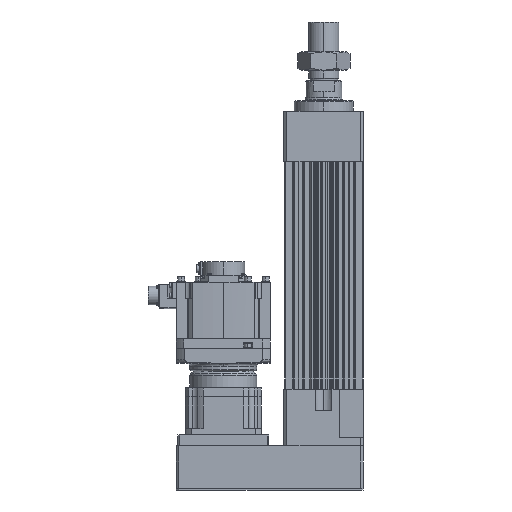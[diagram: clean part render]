
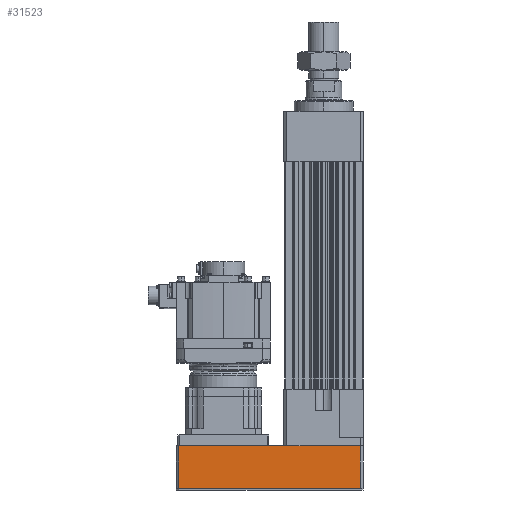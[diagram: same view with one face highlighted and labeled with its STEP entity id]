
A CAD part, left-side view. The second image highlights one B-rep face of the part: STEP entity #31523.
In plain terms, the highlighted planar face has unit normal (-1, 0, 0).
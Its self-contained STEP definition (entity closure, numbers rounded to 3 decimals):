
#2538 = PLANE ( 'NONE',  #39271 ) ;
#3415 = CARTESIAN_POINT ( 'NONE',  ( -73.5, -68.5, -185.5 ) ) ;
#5343 = DIRECTION ( 'NONE',  ( 0., 0., 1. ) ) ;
#6310 = LINE ( 'NONE', #9382, #38261 ) ;
#6352 = LINE ( 'NONE', #47718, #40858 ) ;
#7955 = EDGE_CURVE ( 'NONE', #38922, #53415, #8917, .T. ) ;
#8917 = LINE ( 'NONE', #12364, #45306 ) ;
#9382 = CARTESIAN_POINT ( 'NONE',  ( -73.5, 271.5, -186. ) ) ;
#9703 = VERTEX_POINT ( 'NONE', #22578 ) ;
#10786 = CARTESIAN_POINT ( 'NONE',  ( -73.5, -68.5, -186. ) ) ;
#11932 = CARTESIAN_POINT ( 'NONE',  ( -73.5, -68.5, -185.5 ) ) ;
#12364 = CARTESIAN_POINT ( 'NONE',  ( -73.5, -68.5, -106.5 ) ) ;
#14259 = ORIENTED_EDGE ( 'NONE', *, *, #20906, .F. ) ;
#15533 = EDGE_CURVE ( 'NONE', #9703, #48349, #27744, .T. ) ;
#16669 = DIRECTION ( 'NONE',  ( 0., -1., 0. ) ) ;
#16737 = CARTESIAN_POINT ( 'NONE',  ( -73.5, -68.5, -106.5 ) ) ;
#20906 = EDGE_CURVE ( 'NONE', #9703, #53415, #6310, .T. ) ;
#21082 = CARTESIAN_POINT ( 'NONE',  ( -73.5, 271.5, -106.5 ) ) ;
#22578 = CARTESIAN_POINT ( 'NONE',  ( -73.5, 271.5, -185.5 ) ) ;
#22668 = DIRECTION ( 'NONE',  ( 0., 0., 1. ) ) ;
#27744 = LINE ( 'NONE', #11932, #31057 ) ;
#31057 = VECTOR ( 'NONE', #16669, 1000. ) ;
#31189 = DIRECTION ( 'NONE',  ( 0., 1., 0. ) ) ;
#31523 = ADVANCED_FACE ( 'NONE', ( #51733 ), #2538, .F. ) ;
#31725 = DIRECTION ( 'NONE',  ( 1., 0., 0. ) ) ;
#38261 = VECTOR ( 'NONE', #5343, 1000. ) ;
#38922 = VERTEX_POINT ( 'NONE', #16737 ) ;
#39271 = AXIS2_PLACEMENT_3D ( 'NONE', #10786, #31725, #31189 ) ;
#40858 = VECTOR ( 'NONE', #22668, 1000. ) ;
#41570 = EDGE_CURVE ( 'NONE', #48349, #38922, #6352, .T. ) ;
#45306 = VECTOR ( 'NONE', #49110, 1000. ) ;
#47718 = CARTESIAN_POINT ( 'NONE',  ( -73.5, -68.5, -186. ) ) ;
#48349 = VERTEX_POINT ( 'NONE', #3415 ) ;
#49110 = DIRECTION ( 'NONE',  ( 0., 1., 0. ) ) ;
#49282 = ORIENTED_EDGE ( 'NONE', *, *, #41570, .T. ) ;
#51733 = FACE_OUTER_BOUND ( 'NONE', #52507, .T. ) ;
#52194 = ORIENTED_EDGE ( 'NONE', *, *, #7955, .T. ) ;
#52507 = EDGE_LOOP ( 'NONE', ( #14259, #53904, #49282, #52194 ) ) ;
#53415 = VERTEX_POINT ( 'NONE', #21082 ) ;
#53904 = ORIENTED_EDGE ( 'NONE', *, *, #15533, .T. ) ;
